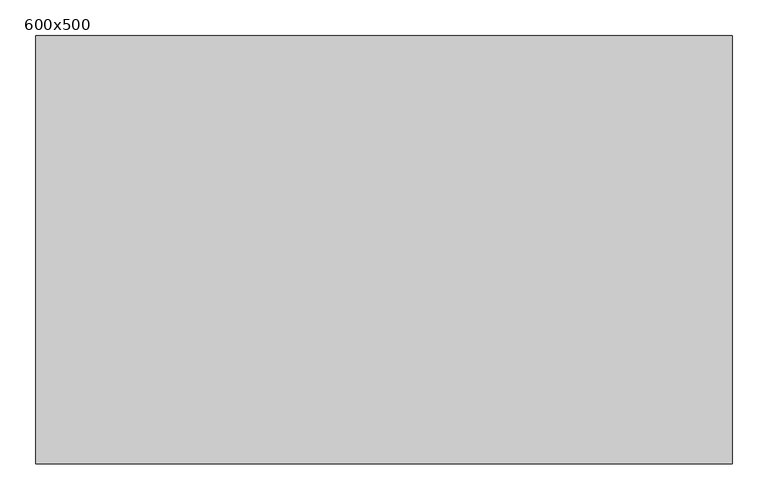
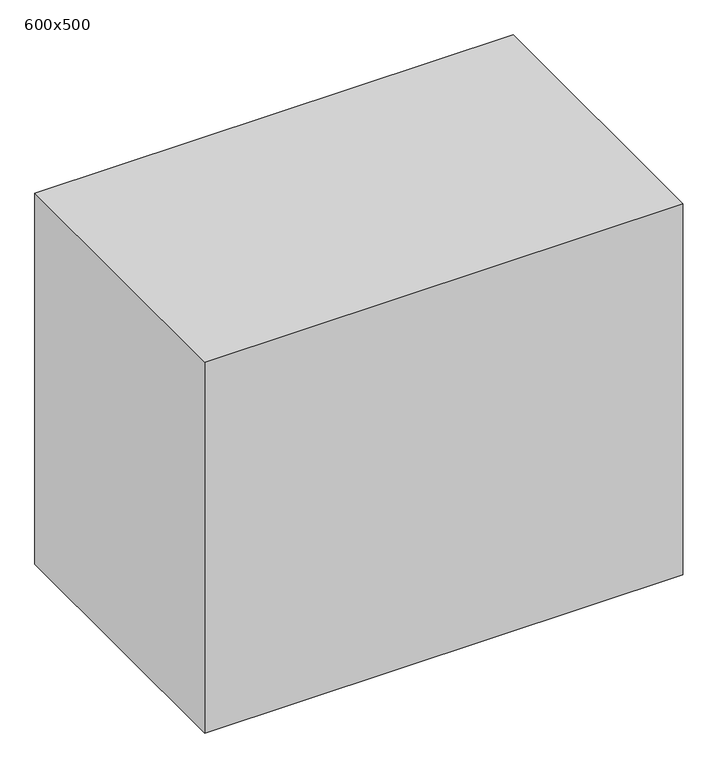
"""IFC4 building model written with IfcOpenShell, lengths in millimetres: flow terminal geometry, SP_раковина_LEG_настраиваемая : 600x500."""

from ifc_helpers import new_model, si_unit, origin, origin_with_axes, place, context, project, spatial, polyline, outline, extrude, source, transform, mapped, element, save


def flow_terminal_600x500_31c47412(model_context):
    return source(origin(), model_context, "Body", "SweptSolid", [
        extrude(outline(polyline([(487.5, 0.0), (487.5, -600.0), (-487.5, -600.0), (-487.5, 0.0), (487.5, 0.0)])), origin_with_axes(), (0.0, 0.0, 1.0), 800.0),
    ])


if __name__ == "__main__":
    model = new_model("IFC4")
    model_context = context("Model", 3, world=origin())
    ifc_project = project(units=[si_unit("LENGTHUNIT", "METRE", prefix="MILLI")], contexts=[model_context])
    site = spatial("IfcSite", under=ifc_project)
    building = spatial("IfcBuilding", under=site)
    placement = place(None, origin())
    flow_terminal_600x500_shape = flow_terminal_600x500_31c47412(model_context)
    element("IfcFlowTerminal", 1, ObjectType="SP_раковина_LEG_настраиваемая : 600x500", at=placement, inside=building, context=model_context, shape_type="MappedRepresentation", body=[
        mapped(flow_terminal_600x500_shape, transform((0.0, 0.0, 0.0), x_axis=(1.0, 0.0, 0.0), y_axis=(0.0, 1.0, 0.0), z_axis=(0.0, 0.0, 1.0))),
    ])
    save(model, "model.ifc")
